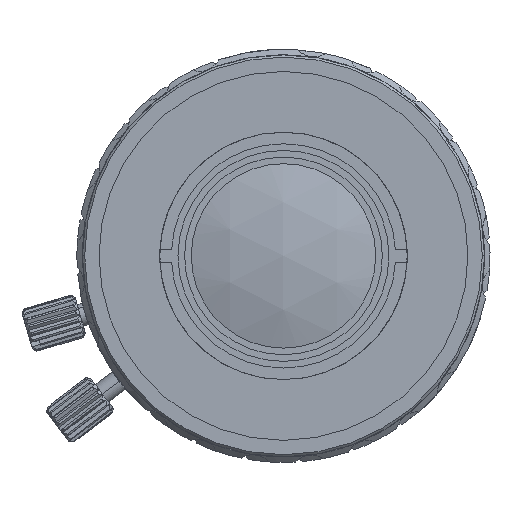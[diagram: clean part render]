
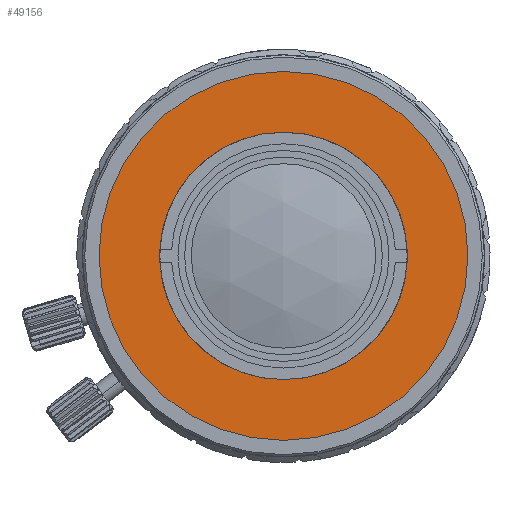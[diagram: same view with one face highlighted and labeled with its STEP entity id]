
A CAD part, left-side view. The second image highlights one B-rep face of the part: STEP entity #49156.
In plain terms, the highlighted planar face has unit normal (-1, 0, 0).
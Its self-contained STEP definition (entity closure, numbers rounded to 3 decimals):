
#44982=CARTESIAN_POINT('',(-12.099,0.174,
37.72));
#44983=DIRECTION('',(-1.,0.,0.));
#44984=DIRECTION('',(0.,0.,1.));
#44985=AXIS2_PLACEMENT_3D('',#44982,#44983,#44984);
#44987=CARTESIAN_POINT('',(-12.099,0.174,
37.72));
#44988=DIRECTION('',(-1.,0.,0.));
#44989=DIRECTION('',(0.,0.,-1.));
#44990=AXIS2_PLACEMENT_3D('',#44987,#44988,#44989);
#44992=CARTESIAN_POINT('',(-12.099,0.174,
37.72));
#44993=DIRECTION('',(1.,0.,0.));
#44994=DIRECTION('',(0.,0.,1.));
#44995=AXIS2_PLACEMENT_3D('',#44992,#44993,#44994);
#44997=CARTESIAN_POINT('',(-12.099,0.174,
37.72));
#44998=DIRECTION('',(1.,0.,0.));
#44999=DIRECTION('',(0.,0.,-1.));
#45000=AXIS2_PLACEMENT_3D('',#44997,#44998,#44999);
#45419=CARTESIAN_POINT('',(-12.099,0.174,
20.52));
#45420=CARTESIAN_POINT('',(-12.099,0.174,
54.92));
#45421=VERTEX_POINT('',#45419);
#45422=VERTEX_POINT('',#45420);
#45423=CARTESIAN_POINT('',(-12.099,0.174,
48.92));
#45424=CARTESIAN_POINT('',(-12.099,0.174,
26.52));
#45425=VERTEX_POINT('',#45423);
#45426=VERTEX_POINT('',#45424);
#49140=CARTESIAN_POINT('',(-12.099,0.174,
37.72));
#49141=DIRECTION('',(1.,0.,0.));
#49142=DIRECTION('',(0.,0.,1.));
#49143=AXIS2_PLACEMENT_3D('',#49140,#49141,#49142);
#49144=PLANE('',#49143);
#49146=ORIENTED_EDGE('',*,*,#49145,.F.);
#49147=ORIENTED_EDGE('',*,*,#49130,.F.);
#49148=EDGE_LOOP('',(#49146,#49147));
#49149=FACE_OUTER_BOUND('',#49148,.F.);
#49151=ORIENTED_EDGE('',*,*,#49150,.F.);
#49153=ORIENTED_EDGE('',*,*,#49152,.F.);
#49154=EDGE_LOOP('',(#49151,#49153));
#49155=FACE_BOUND('',#49154,.F.);
#49156=ADVANCED_FACE('',(#49149,#49155),#49144,.F.);
#44986=CIRCLE('',#44985,17.2);
#44991=CIRCLE('',#44990,17.2);
#44996=CIRCLE('',#44995,11.2);
#45001=CIRCLE('',#45000,11.2);
#49130=EDGE_CURVE('',#45421,#45422,#44991,.T.);
#49145=EDGE_CURVE('',#45422,#45421,#44986,.T.);
#49150=EDGE_CURVE('',#45425,#45426,#44996,.T.);
#49152=EDGE_CURVE('',#45426,#45425,#45001,.T.);
